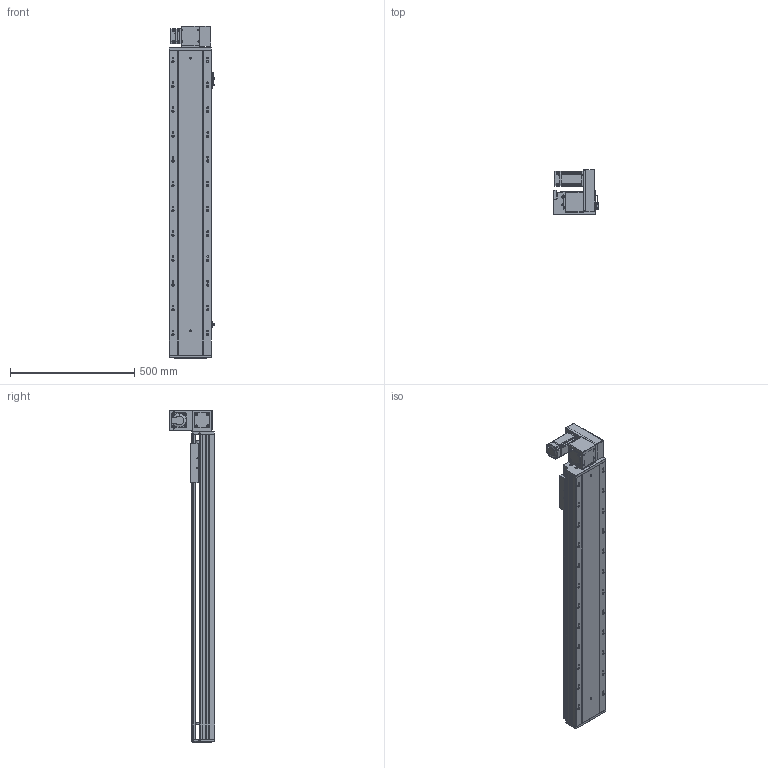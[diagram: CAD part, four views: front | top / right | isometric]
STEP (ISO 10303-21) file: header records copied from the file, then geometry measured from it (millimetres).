
FILE_DESCRIPTION (( 'STEP AP203' ), '1' );
FILE_NAME ('RY170-T-300-UR-P400W.SLDASM_950.step', '2021-03-01T09:27:42', ( '盈信电脑' ), ( '东莞市道滘镇水果街19号' ), 'SwSTEP 2.0', 'SolidWorks 2012', '' );
FILE_SCHEMA (( 'CONFIG_CONTROL_DESIGN' ));
Length unit declared in the file: millimetre
Products named in the file (18): 15; 滅袉蝶18-10; RY170-T-300-UR-P400W.SLDASM_950; RY170-T蹟翐M4; RY120-T主同步轮轴承压盖; RY170-T肮祭湍揤踡輸2; RY170-T肮祭謫裔啣; RY170肮祭謫萇儂欶; RY170-T肮祭湍揤踡輸1; RY170同步轮电机安装板(400W); RY170肮祭謫ヶ裔啣; RY170外置感应片(200共用）; 覜茼ん672; RY170翋肮祭謫釱; RY170-T-300肮祭謫倰第裔啣-DR_950; RY170肮祭湍臏賑輸; RY170-T-300肮祭謫倰第菁釱-DR_950; RY170綴裔啣
Assembly tree (22 placements, depth 2):
  RY170-T-300-UR-P400W.SLDASM_950
    RY170-T-300肮祭謫倰第菁釱-DR_950
    RY170肮祭湍臏賑輸
    RY170-T-300肮祭謫倰第裔啣-DR_950
    RY170綴裔啣
    覜茼ん672  x3
    RY170外置感应片(200共用）
    RY170肮祭謫ヶ裔啣
    RY170翋肮祭謫釱
    RY170同步轮电机安装板(400W)
    RY170肮祭謫萇儂欶
    RY170-T肮祭湍揤踡輸1  x2
    RY170-T肮祭湍揤踡輸2  x2
    RY120-T主同步轮轴承压盖
    RY170-T肮祭謫裔啣
    RY170-T蹟翐M4
    滅袉蝶18-10  x2
    15
Bounding box: 183.7 x 182 x 1338 mm (x, y, z)
Volume: 6683569.6 mm3; surface area: 2275096.7 mm2
Topology: 22 solids, 22 shells, 2876 faces, 8114 edges, 5221 vertices
Faces by surface type: cylinder 1340, plane 1270, cone 236, bspline 30
Entity records: 88264 total; most frequent: CARTESIAN_POINT 20767, ORIENTED_EDGE 13936, DIRECTION 13408, EDGE_CURVE 6968, AXIS2_PLACEMENT_3D 4732, VERTEX_POINT 4577, LINE 3944, VECTOR 3944
